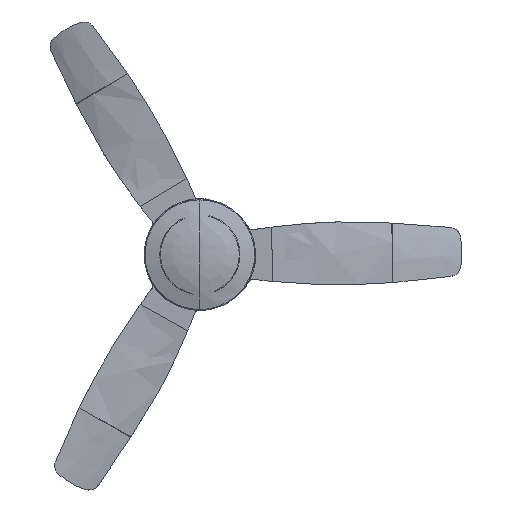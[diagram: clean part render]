
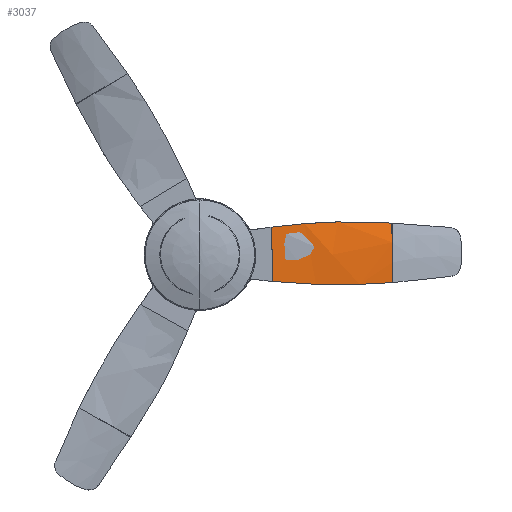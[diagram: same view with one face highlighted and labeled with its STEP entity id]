
A CAD part, top view. The second image highlights one B-rep face of the part: STEP entity #3037.
In plain terms, the highlighted free-form (B-spline) face has degree [3, 3] with [5, 5] control points.
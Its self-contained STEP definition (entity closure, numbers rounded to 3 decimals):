
#67=B_SPLINE_SURFACE_WITH_KNOTS('',3,3,((#6206,#6207,#6208,#6209,#6210),
(#6211,#6212,#6213,#6214,#6215),(#6216,#6217,#6218,#6219,#6220),(#6221,
#6222,#6223,#6224,#6225),(#6226,#6227,#6228,#6229,#6230)),.UNSPECIFIED.,
 .F.,.F.,.F.,(4,1,4),(4,1,4),(0.,0.344,0.688),(0.,
0.498,0.995),.UNSPECIFIED.);
#174=B_SPLINE_CURVE_WITH_KNOTS('',3,(#6133,#6134,#6135,#6136,#6137,#6138),
 .UNSPECIFIED.,.F.,.F.,(4,2,4),(0.,41.786,83.573),
 .UNSPECIFIED.);
#175=B_SPLINE_CURVE_WITH_KNOTS('',3,(#6143,#6144,#6145,#6146,#6147,#6148),
 .UNSPECIFIED.,.F.,.F.,(4,2,4),(0.,2.392,4.785),
 .UNSPECIFIED.);
#178=B_SPLINE_CURVE_WITH_KNOTS('',3,(#6161,#6162,#6163,#6164,#6165,#6166,
#6167,#6168,#6169,#6170,#6171,#6172,#6173,#6174,#6175,#6176,#6177,#6178,
#6179,#6180,#6181,#6182,#6183,#6184,#6185,#6186,#6187,#6188),
 .UNSPECIFIED.,.F.,.F.,(4,3,3,3,3,3,3,3,3,4),(0.,75.411,
93.612,126.454,150.225,169.632,204.956,
233.399,278.53,301.645),.UNSPECIFIED.);
#179=B_SPLINE_CURVE_WITH_KNOTS('',3,(#6191,#6192,#6193,#6194,#6195,#6196,
#6197,#6198,#6199,#6200),.UNSPECIFIED.,.F.,.F.,(4,2,2,2,4),(0.,55.175,
109.973,165.068,219.946),.UNSPECIFIED.);
#181=B_SPLINE_CURVE_WITH_KNOTS('',3,(#6231,#6232,#6233,#6234,#6235,#6236),
 .UNSPECIFIED.,.F.,.F.,(4,2,4),(-153.391,-76.767,-0.005),
 .UNSPECIFIED.);
#451=FACE_OUTER_BOUND('',#650,.T.);
#650=EDGE_LOOP('',(#2426,#2427,#2428,#2429,#2430,#2431));
#861=LINE('',#6237,#1054);
#1054=VECTOR('',#3830,304.8);
#1375=VERTEX_POINT('',#6125);
#1376=VERTEX_POINT('',#6127);
#1377=VERTEX_POINT('',#6140);
#1378=VERTEX_POINT('',#6142);
#1379=VERTEX_POINT('',#6155);
#1380=VERTEX_POINT('',#6190);
#1736=EDGE_CURVE('',#1375,#1376,#174,.T.);
#1738=EDGE_CURVE('',#1378,#1377,#175,.T.);
#1741=EDGE_CURVE('',#1377,#1379,#178,.T.);
#1742=EDGE_CURVE('',#1380,#1375,#179,.T.);
#1744=EDGE_CURVE('',#1378,#1376,#181,.T.);
#1745=EDGE_CURVE('',#1380,#1379,#861,.T.);
#2426=ORIENTED_EDGE('',*,*,#1744,.F.);
#2427=ORIENTED_EDGE('',*,*,#1738,.T.);
#2428=ORIENTED_EDGE('',*,*,#1741,.T.);
#2429=ORIENTED_EDGE('',*,*,#1745,.F.);
#2430=ORIENTED_EDGE('',*,*,#1742,.T.);
#2431=ORIENTED_EDGE('',*,*,#1736,.T.);
#3037=ADVANCED_FACE('',(#451),#67,.T.);
#3830=DIRECTION('',(-0.017,1.,0.));
#6125=CARTESIAN_POINT('',(402.39,-74.533,381.952));
#6127=CARTESIAN_POINT('',(485.689,-70.196,386.977));
#6133=CARTESIAN_POINT('Ctrl Pts',(402.39,-74.533,381.952));
#6134=CARTESIAN_POINT('Ctrl Pts',(416.289,-74.085,382.74));
#6135=CARTESIAN_POINT('Ctrl Pts',(430.181,-73.499,383.558));
#6136=CARTESIAN_POINT('Ctrl Pts',(457.949,-72.053,385.239));
#6137=CARTESIAN_POINT('Ctrl Pts',(471.824,-71.193,386.101));
#6138=CARTESIAN_POINT('Ctrl Pts',(485.689,-70.196,386.977));
#6140=CARTESIAN_POINT('',(480.52,79.777,356.199));
#6142=CARTESIAN_POINT('',(485.299,79.557,356.251));
#6143=CARTESIAN_POINT('Ctrl Pts',(485.299,79.557,356.251));
#6144=CARTESIAN_POINT('Ctrl Pts',(484.503,79.594,356.242));
#6145=CARTESIAN_POINT('Ctrl Pts',(483.706,79.631,356.233));
#6146=CARTESIAN_POINT('Ctrl Pts',(482.113,79.705,356.215));
#6147=CARTESIAN_POINT('Ctrl Pts',(481.317,79.741,356.207));
#6148=CARTESIAN_POINT('Ctrl Pts',(480.52,79.777,356.199));
#6155=CARTESIAN_POINT('',(180.635,69.483,373.026));
#6161=CARTESIAN_POINT('Ctrl Pts',(480.52,79.777,356.199));
#6162=CARTESIAN_POINT('Ctrl Pts',(455.44,81.415,355.749));
#6163=CARTESIAN_POINT('Ctrl Pts',(430.412,82.423,355.873));
#6164=CARTESIAN_POINT('Ctrl Pts',(405.29,82.808,356.533));
#6165=CARTESIAN_POINT('Ctrl Pts',(399.226,82.901,356.693));
#6166=CARTESIAN_POINT('Ctrl Pts',(393.165,82.958,356.883));
#6167=CARTESIAN_POINT('Ctrl Pts',(387.11,82.978,357.103));
#6168=CARTESIAN_POINT('Ctrl Pts',(376.184,83.014,357.499));
#6169=CARTESIAN_POINT('Ctrl Pts',(365.273,82.932,357.992));
#6170=CARTESIAN_POINT('Ctrl Pts',(354.363,82.731,358.572));
#6171=CARTESIAN_POINT('Ctrl Pts',(346.467,82.586,358.992));
#6172=CARTESIAN_POINT('Ctrl Pts',(338.57,82.379,359.458));
#6173=CARTESIAN_POINT('Ctrl Pts',(330.67,82.109,359.966));
#6174=CARTESIAN_POINT('Ctrl Pts',(324.219,81.889,360.38));
#6175=CARTESIAN_POINT('Ctrl Pts',(317.776,81.628,360.822));
#6176=CARTESIAN_POINT('Ctrl Pts',(311.339,81.326,361.288));
#6177=CARTESIAN_POINT('Ctrl Pts',(299.624,80.776,362.136));
#6178=CARTESIAN_POINT('Ctrl Pts',(287.928,80.091,363.066));
#6179=CARTESIAN_POINT('Ctrl Pts',(276.239,79.269,364.056));
#6180=CARTESIAN_POINT('Ctrl Pts',(266.828,78.608,364.854));
#6181=CARTESIAN_POINT('Ctrl Pts',(257.421,77.858,365.692));
#6182=CARTESIAN_POINT('Ctrl Pts',(248.031,77.021,366.555));
#6183=CARTESIAN_POINT('Ctrl Pts',(233.13,75.692,367.926));
#6184=CARTESIAN_POINT('Ctrl Pts',(218.257,74.143,369.364));
#6185=CARTESIAN_POINT('Ctrl Pts',(203.414,72.374,370.809));
#6186=CARTESIAN_POINT('Ctrl Pts',(195.811,71.468,371.55));
#6187=CARTESIAN_POINT('Ctrl Pts',(188.218,70.504,372.291));
#6188=CARTESIAN_POINT('Ctrl Pts',(180.635,69.483,373.026));
#6190=CARTESIAN_POINT('',(182.953,-67.261,373.026));
#6191=CARTESIAN_POINT('Ctrl Pts',(182.953,-67.261,373.026));
#6192=CARTESIAN_POINT('Ctrl Pts',(201.251,-69.069,373.442));
#6193=CARTESIAN_POINT('Ctrl Pts',(219.565,-70.576,373.938));
#6194=CARTESIAN_POINT('Ctrl Pts',(256.127,-72.981,375.104));
#6195=CARTESIAN_POINT('Ctrl Pts',(274.351,-73.882,375.771));
#6196=CARTESIAN_POINT('Ctrl Pts',(310.931,-75.094,377.277));
#6197=CARTESIAN_POINT('Ctrl Pts',(329.268,-75.4,378.116));
#6198=CARTESIAN_POINT('Ctrl Pts',(365.878,-75.413,379.937));
#6199=CARTESIAN_POINT('Ctrl Pts',(384.138,-75.122,380.917));
#6200=CARTESIAN_POINT('Ctrl Pts',(402.39,-74.533,381.952));
#6206=CARTESIAN_POINT('Ctrl Pts',(486.911,-129.352,383.844));
#6207=CARTESIAN_POINT('Ctrl Pts',(436.32,-121.359,381.036));
#6208=CARTESIAN_POINT('Ctrl Pts',(335.095,-105.372,376.426));
#6209=CARTESIAN_POINT('Ctrl Pts',(233.828,-89.387,373.824));
#6210=CARTESIAN_POINT('Ctrl Pts',(183.193,-81.394,373.026));
#6211=CARTESIAN_POINT('Ctrl Pts',(485.828,-87.162,389.111));
#6212=CARTESIAN_POINT('Ctrl Pts',(435.373,-81.54,385.428));
#6213=CARTESIAN_POINT('Ctrl Pts',(334.386,-70.297,379.064));
#6214=CARTESIAN_POINT('Ctrl Pts',(233.287,-59.055,374.704));
#6215=CARTESIAN_POINT('Ctrl Pts',(182.719,-53.435,373.026));
#6216=CARTESIAN_POINT('Ctrl Pts',(484.543,-1.141,386.63));
#6217=CARTESIAN_POINT('Ctrl Pts',(434.128,-0.536,383.36));
#6218=CARTESIAN_POINT('Ctrl Pts',(333.237,0.673,377.822));
#6219=CARTESIAN_POINT('Ctrl Pts',(232.266,1.88,374.29));
#6220=CARTESIAN_POINT('Ctrl Pts',(181.771,2.483,373.026));
#6221=CARTESIAN_POINT('Ctrl Pts',(485.142,80.146,358.355));
#6222=CARTESIAN_POINT('Ctrl Pts',(434.282,76.52,359.784));
#6223=CARTESIAN_POINT('Ctrl Pts',(332.688,69.269,363.662));
#6224=CARTESIAN_POINT('Ctrl Pts',(231.389,62.023,369.568));
#6225=CARTESIAN_POINT('Ctrl Pts',(180.823,58.401,373.026));
#6226=CARTESIAN_POINT('Ctrl Pts',(485.899,117.712,338.426));
#6227=CARTESIAN_POINT('Ctrl Pts',(434.701,112.482,343.168));
#6228=CARTESIAN_POINT('Ctrl Pts',(332.565,102.027,353.681));
#6229=CARTESIAN_POINT('Ctrl Pts',(230.988,91.581,366.24));
#6230=CARTESIAN_POINT('Ctrl Pts',(180.349,86.36,373.026));
#6231=CARTESIAN_POINT('Ctrl Pts',(485.299,79.557,356.251));
#6232=CARTESIAN_POINT('Ctrl Pts',(485.026,55.824,365.91));
#6233=CARTESIAN_POINT('Ctrl Pts',(484.921,31.201,373.389));
#6234=CARTESIAN_POINT('Ctrl Pts',(485.051,-19.045,383.706));
#6235=CARTESIAN_POINT('Ctrl Pts',(485.288,-44.616,386.514));
#6236=CARTESIAN_POINT('Ctrl Pts',(485.689,-70.196,386.977));
#6237=CARTESIAN_POINT('',(182.953,-67.261,373.026));
